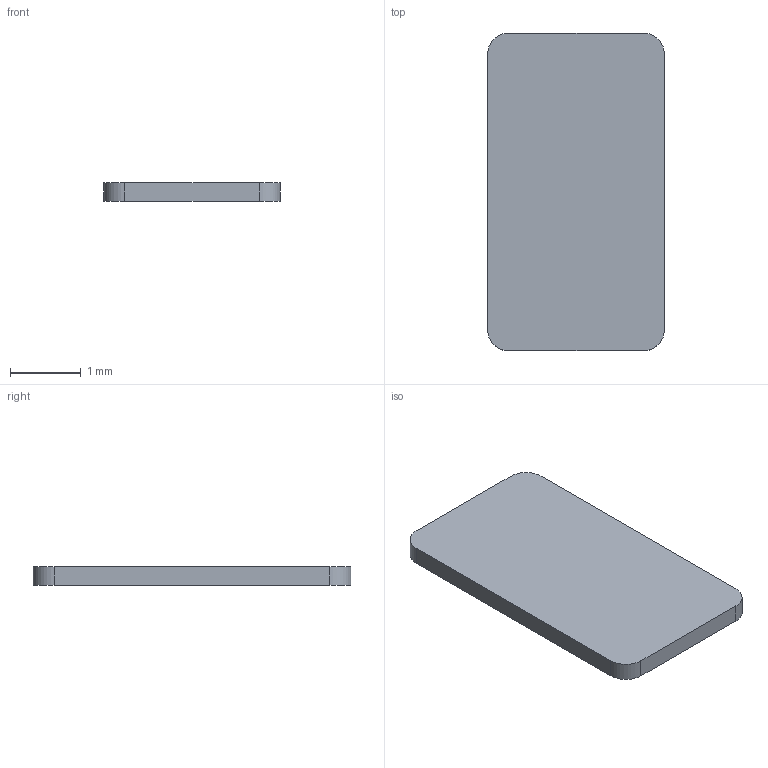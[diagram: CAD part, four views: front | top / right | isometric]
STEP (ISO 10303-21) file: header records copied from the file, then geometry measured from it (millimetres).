
FILE_DESCRIPTION(/* description */ (''),/* implementation_level */ '2;1');
FILE_NAME(/* name */ 'C28_R2_PCB_Front_Seat_2_Y10p2_REVIEW.step',/* time_stamp */ '2026-09-10T17:48:42-07:00',/* author */ (''),/* organization */ (''),/* preprocessor_version */ 'ST-DEVELOPER v20.1',/* originating_system */ 'Autodesk Translation Framework v15.8.0.0',/* authorisation */ '');
FILE_SCHEMA (('AUTOMOTIVE_DESIGN { 1 0 10303 214 3 1 1 }'));
Length unit declared in the file: millimetre
Products named in the file (1): 2026-09-10-17-48-42-723
Bounding box: 2.5 x 4.5 x 0.26 mm (x, y, z)
Volume: 2.9 mm3; surface area: 25.9 mm2
Topology: 1 solids, 1 shells, 10 faces, 24 edges, 16 vertices
Faces by surface type: plane 6, cylinder 4
Entity records: 329 total; most frequent: DIRECTION 54, CARTESIAN_POINT 51, ORIENTED_EDGE 48, EDGE_CURVE 24, AXIS2_PLACEMENT_3D 19, LINE 16, VECTOR 16, VERTEX_POINT 16
